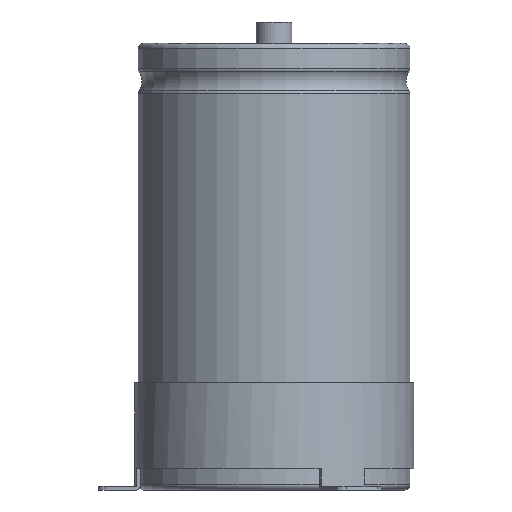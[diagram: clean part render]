
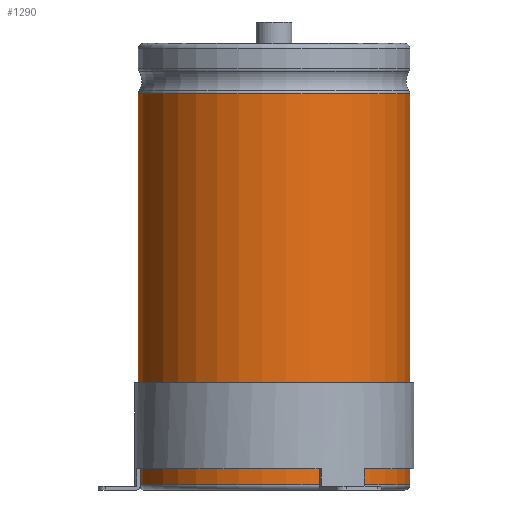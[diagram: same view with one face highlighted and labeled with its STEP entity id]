
A CAD part, front view. The second image highlights one B-rep face of the part: STEP entity #1290.
In plain terms, the highlighted cylindrical face has radius 38.1 mm (diameter 76.2 mm), a partial arc.
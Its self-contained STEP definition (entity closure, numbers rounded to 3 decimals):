
#233=LINE('',#6602,#447);
#234=LINE('',#6606,#448);
#447=VECTOR('',#5225,1.);
#448=VECTOR('',#5228,1.);
#695=FACE_OUTER_BOUND('',#1742,.T.);
#1290=ADVANCED_FACE('',(#695),#1520,.T.);
#1520=CYLINDRICAL_SURFACE('',#4586,38.1);
#1742=EDGE_LOOP('',(#2148,#2149,#2150,#2151));
#2148=ORIENTED_EDGE('',*,*,#3703,.T.);
#2149=ORIENTED_EDGE('',*,*,#3704,.T.);
#2150=ORIENTED_EDGE('',*,*,#3705,.F.);
#2151=ORIENTED_EDGE('',*,*,#3706,.F.);
#3275=VERTEX_POINT('',#6595);
#3277=VERTEX_POINT('',#6599);
#3278=VERTEX_POINT('',#6603);
#3279=VERTEX_POINT('',#6605);
#3703=EDGE_CURVE('',#3275,#3277,#4268,.T.);
#3704=EDGE_CURVE('',#3277,#3278,#233,.T.);
#3705=EDGE_CURVE('',#3279,#3278,#4269,.T.);
#3706=EDGE_CURVE('',#3275,#3279,#234,.T.);
#4268=CIRCLE('',#4583,38.1);
#4269=CIRCLE('',#4585,38.1);
#4583=AXIS2_PLACEMENT_3D('',#6600,#5221,#5222);
#4585=AXIS2_PLACEMENT_3D('',#6604,#5226,#5227);
#4586=AXIS2_PLACEMENT_3D('',#6607,#5229,#5230);
#5221=DIRECTION('',(0.,0.,-1.));
#5222=DIRECTION('',(0.,1.,0.));
#5225=DIRECTION('',(0.,0.,-1.));
#5226=DIRECTION('',(0.,0.,-1.));
#5227=DIRECTION('',(0.,1.,0.));
#5228=DIRECTION('',(0.,0.,-1.));
#5229=DIRECTION('',(0.,0.,-1.));
#5230=DIRECTION('',(0.,1.,0.));
#6595=CARTESIAN_POINT('',(3.983,37.891,110.9));
#6599=CARTESIAN_POINT('',(-3.983,37.891,110.9));
#6600=CARTESIAN_POINT('',(0.,0.,110.9));
#6602=CARTESIAN_POINT('',(-3.983,37.891,110.9));
#6603=CARTESIAN_POINT('',(-3.983,37.891,1.5));
#6604=CARTESIAN_POINT('',(0.,0.,1.5));
#6605=CARTESIAN_POINT('',(3.983,37.891,1.5));
#6606=CARTESIAN_POINT('',(3.983,37.891,110.9));
#6607=CARTESIAN_POINT('',(0.,0.,0.));
